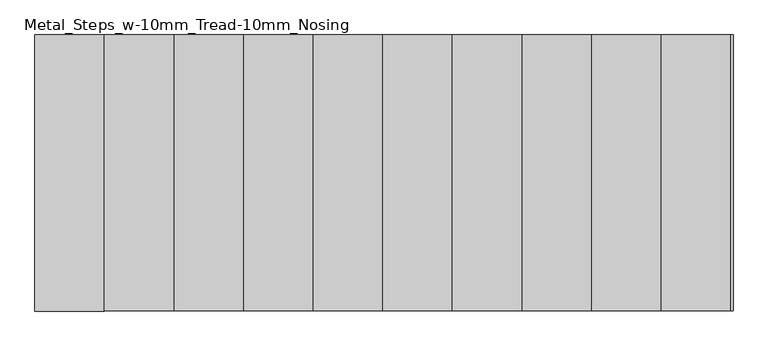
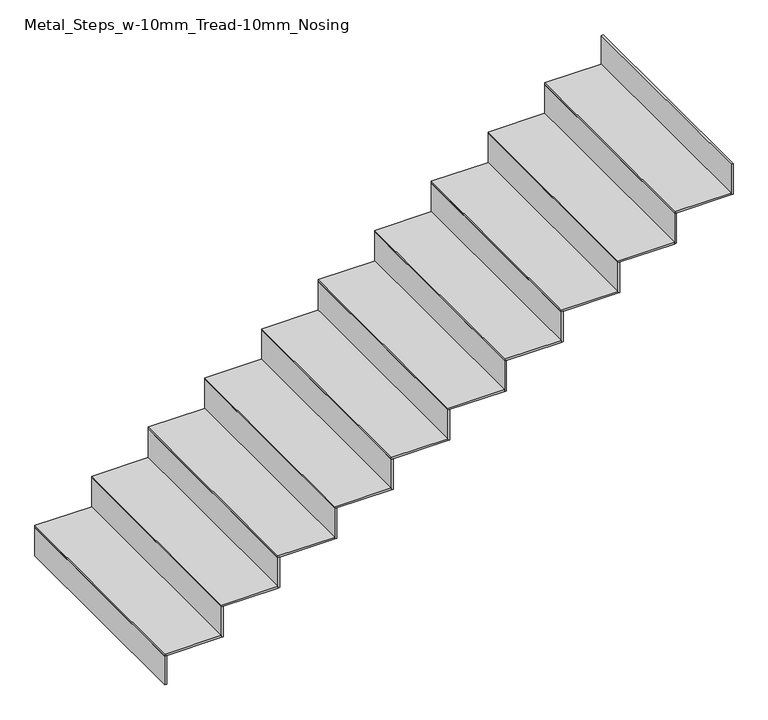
"""IFC4 building model written with IfcOpenShell, lengths in millimetres: stair flight geometry, Metal_Steps_w-10mm_Tread-10mm_Nosing."""

from ifc_helpers import new_model, si_unit, frame, origin, place, context, project, spatial, polyline, outline, extrude, source, transform, mapped, element, save


def metal_steps_w_10mm_tread_10mm_nosing_9669a153(model_context):
    return source(origin(), model_context, "Body", "SweptSolid", [
        extrude(outline(polyline([(-791.4958562, 12334.1395051), (-801.4958562, 12334.1395051), (-801.4958562, 13524.1395051), (-791.4958562, 13524.1395051), (-791.4958562, 12334.1395051)])), frame((0.0, 0.0, 7510.0), z_axis=(0.0, 0.0, 1.0), x_axis=(1.0, 0.0, 0.0)), (0.0, 0.0, 1.0), 160.4545455),
        extrude(outline(polyline([(-501.4958562, 13524.1395051), (-501.4958562, 12334.1395051), (-801.4958562, 12334.1395051), (-801.4958562, 13524.1395051), (-501.4958562, 13524.1395051)])), frame((0.0, 0.0, 7670.4545455), z_axis=(0.0, 0.0, 1.0), x_axis=(1.0, 0.0, 0.0)), (0.0, 0.0, 1.0), 10.0),
        extrude(outline(polyline([(-491.4958562, 12334.1395051), (-501.4958562, 12334.1395051), (-501.4958562, 13524.1395051), (-491.4958562, 13524.1395051), (-491.4958562, 12334.1395051)])), frame((0.0, 0.0, 7670.4545455), z_axis=(0.0, 0.0, 1.0), x_axis=(1.0, 0.0, 0.0)), (0.0, 0.0, 1.0), 170.4545455),
        extrude(outline(polyline([(-201.4958562, 13524.1395051), (-201.4958562, 12334.1395051), (-501.4958562, 12334.1395051), (-501.4958562, 13524.1395051), (-201.4958562, 13524.1395051)])), frame((0.0, 0.0, 7840.9090909), z_axis=(0.0, 0.0, 1.0), x_axis=(1.0, 0.0, 0.0)), (0.0, 0.0, 1.0), 10.0),
        extrude(outline(polyline([(-191.4958562, 12334.1395051), (-201.4958562, 12334.1395051), (-201.4958562, 13524.1395051), (-191.4958562, 13524.1395051), (-191.4958562, 12334.1395051)])), frame((0.0, 0.0, 7840.9090909), z_axis=(0.0, 0.0, 1.0), x_axis=(1.0, 0.0, 0.0)), (0.0, 0.0, 1.0), 170.4545455),
        extrude(outline(polyline([(98.5041438, 13524.1395051), (98.5041438, 12334.1395051), (-201.4958562, 12334.1395051), (-201.4958562, 13524.1395051), (98.5041438, 13524.1395051)])), frame((0.0, 0.0, 8011.3636364), z_axis=(0.0, 0.0, 1.0), x_axis=(1.0, 0.0, 0.0)), (0.0, 0.0, 1.0), 10.0),
        extrude(outline(polyline([(108.5041438, 12334.1395051), (98.5041438, 12334.1395051), (98.5041438, 13524.1395051), (108.5041438, 13524.1395051), (108.5041438, 12334.1395051)])), frame((0.0, 0.0, 8011.3636364), z_axis=(0.0, 0.0, 1.0), x_axis=(1.0, 0.0, 0.0)), (0.0, 0.0, 1.0), 170.4545455),
        extrude(outline(polyline([(398.5041438, 13524.1395051), (398.5041438, 12334.1395051), (98.5041438, 12334.1395051), (98.5041438, 13524.1395051), (398.5041438, 13524.1395051)])), frame((0.0, 0.0, 8181.8181818), z_axis=(0.0, 0.0, 1.0), x_axis=(1.0, 0.0, 0.0)), (0.0, 0.0, 1.0), 10.0),
        extrude(outline(polyline([(408.5041438, 12334.1395051), (398.5041438, 12334.1395051), (398.5041438, 13524.1395051), (408.5041438, 13524.1395051), (408.5041438, 12334.1395051)])), frame((0.0, 0.0, 8181.8181818), z_axis=(0.0, 0.0, 1.0), x_axis=(1.0, 0.0, 0.0)), (0.0, 0.0, 1.0), 170.4545455),
        extrude(outline(polyline([(698.5041438, 13524.1395051), (698.5041438, 12334.1395051), (398.5041438, 12334.1395051), (398.5041438, 13524.1395051), (698.5041438, 13524.1395051)])), frame((0.0, 0.0, 8352.2727273), z_axis=(0.0, 0.0, 1.0), x_axis=(1.0, 0.0, 0.0)), (0.0, 0.0, 1.0), 10.0),
        extrude(outline(polyline([(708.5041438, 12334.1395051), (698.5041438, 12334.1395051), (698.5041438, 13524.1395051), (708.5041438, 13524.1395051), (708.5041438, 12334.1395051)])), frame((0.0, 0.0, 8352.2727273), z_axis=(0.0, 0.0, 1.0), x_axis=(1.0, 0.0, 0.0)), (0.0, 0.0, 1.0), 170.4545455),
        extrude(outline(polyline([(998.5041438, 13524.1395051), (998.5041438, 12334.1395051), (698.5041438, 12334.1395051), (698.5041438, 13524.1395051), (998.5041438, 13524.1395051)])), frame((0.0, 0.0, 8522.7272727), z_axis=(0.0, 0.0, 1.0), x_axis=(1.0, 0.0, 0.0)), (0.0, 0.0, 1.0), 10.0),
        extrude(outline(polyline([(1008.5041438, 12334.1395051), (998.5041438, 12334.1395051), (998.5041438, 13524.1395051), (1008.5041438, 13524.1395051), (1008.5041438, 12334.1395051)])), frame((0.0, 0.0, 8522.7272727), z_axis=(0.0, 0.0, 1.0), x_axis=(1.0, 0.0, 0.0)), (0.0, 0.0, 1.0), 170.4545455),
        extrude(outline(polyline([(1298.5041438, 13524.1395051), (1298.5041438, 12334.1395051), (998.5041438, 12334.1395051), (998.5041438, 13524.1395051), (1298.5041438, 13524.1395051)])), frame((0.0, 0.0, 8693.1818182), z_axis=(0.0, 0.0, 1.0), x_axis=(1.0, 0.0, 0.0)), (0.0, 0.0, 1.0), 10.0),
        extrude(outline(polyline([(1308.5041438, 12334.1395051), (1298.5041438, 12334.1395051), (1298.5041438, 13524.1395051), (1308.5041438, 13524.1395051), (1308.5041438, 12334.1395051)])), frame((0.0, 0.0, 8693.1818182), z_axis=(0.0, 0.0, 1.0), x_axis=(1.0, 0.0, 0.0)), (0.0, 0.0, 1.0), 170.4545455),
        extrude(outline(polyline([(1598.5041438, 13524.1395051), (1598.5041438, 12334.1395051), (1298.5041438, 12334.1395051), (1298.5041438, 13524.1395051), (1598.5041438, 13524.1395051)])), frame((0.0, 0.0, 8863.6363636), z_axis=(0.0, 0.0, 1.0), x_axis=(1.0, 0.0, 0.0)), (0.0, 0.0, 1.0), 10.0),
        extrude(outline(polyline([(1608.5041438, 12334.1395051), (1598.5041438, 12334.1395051), (1598.5041438, 13524.1395051), (1608.5041438, 13524.1395051), (1608.5041438, 12334.1395051)])), frame((0.0, 0.0, 8863.6363636), z_axis=(0.0, 0.0, 1.0), x_axis=(1.0, 0.0, 0.0)), (0.0, 0.0, 1.0), 170.4545455),
        extrude(outline(polyline([(1898.5041438, 13524.1395051), (1898.5041438, 12334.1395051), (1598.5041438, 12334.1395051), (1598.5041438, 13524.1395051), (1898.5041438, 13524.1395051)])), frame((0.0, 0.0, 9034.0909091), z_axis=(0.0, 0.0, 1.0), x_axis=(1.0, 0.0, 0.0)), (0.0, 0.0, 1.0), 10.0),
        extrude(outline(polyline([(1908.5041438, 12334.1395051), (1898.5041438, 12334.1395051), (1898.5041438, 13524.1395051), (1908.5041438, 13524.1395051), (1908.5041438, 12334.1395051)])), frame((0.0, 0.0, 9034.0909091), z_axis=(0.0, 0.0, 1.0), x_axis=(1.0, 0.0, 0.0)), (0.0, 0.0, 1.0), 170.4545455),
        extrude(outline(polyline([(2198.5041438, 13524.1395051), (2198.5041438, 12334.1395051), (1898.5041438, 12334.1395051), (1898.5041438, 13524.1395051), (2198.5041438, 13524.1395051)])), frame((0.0, 0.0, 9204.5454545), z_axis=(0.0, 0.0, 1.0), x_axis=(1.0, 0.0, 0.0)), (0.0, 0.0, 1.0), 10.0),
        extrude(outline(polyline([(2208.5041438, 12334.1395051), (2198.5041438, 12334.1395051), (2198.5041438, 13524.1395051), (2208.5041438, 13524.1395051), (2208.5041438, 12334.1395051)])), frame((0.0, 0.0, 9204.5454545), z_axis=(0.0, 0.0, 1.0), x_axis=(1.0, 0.0, 0.0)), (0.0, 0.0, 1.0), 170.4545455),
    ])


if __name__ == "__main__":
    model = new_model("IFC4")
    model_context = context("Model", 3, world=origin())
    ifc_project = project(units=[si_unit("LENGTHUNIT", "METRE", prefix="MILLI")], contexts=[model_context])
    site = spatial("IfcSite", under=ifc_project)
    building = spatial("IfcBuilding", under=site)
    placement = place(None, origin())
    metal_steps_w_10mm_tread_10mm_nosing_shape = metal_steps_w_10mm_tread_10mm_nosing_9669a153(model_context)
    element("IfcStairFlight", 1, ObjectType="Metal_Steps_w-10mm_Tread-10mm_Nosing", at=placement, inside=building, context=model_context, shape_type="MappedRepresentation", body=[
        mapped(metal_steps_w_10mm_tread_10mm_nosing_shape, transform((0.0, 0.0, 0.0), x_axis=(1.0, 0.0, 0.0), y_axis=(0.0, 1.0, 0.0), z_axis=(0.0, 0.0, 1.0))),
    ])
    save(model, "model.ifc")
